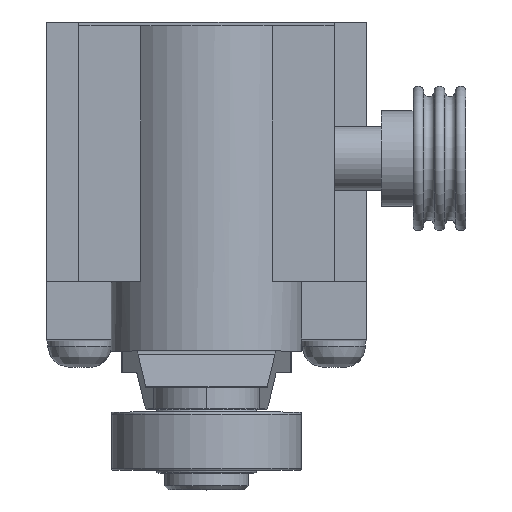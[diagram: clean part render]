
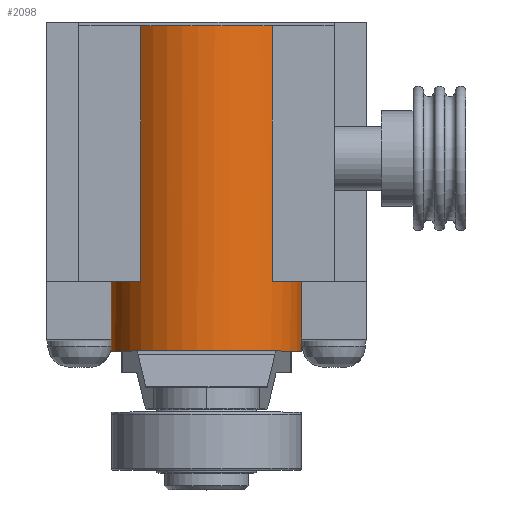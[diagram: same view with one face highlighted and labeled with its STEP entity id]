
A CAD part, top view. The second image highlights one B-rep face of the part: STEP entity #2098.
In plain terms, the highlighted cylindrical face has radius 9 mm (diameter 18 mm), a full revolution.
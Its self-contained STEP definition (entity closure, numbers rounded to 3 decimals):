
#1884=CARTESIAN_POINT('',(4.975,-9.5,63.));
#1885=VERTEX_POINT('',#1884);
#1886=CARTESIAN_POINT('',(-4.975,-9.5,63.));
#1887=VERTEX_POINT('',#1886);
#1888=CARTESIAN_POINT('',(0.,-9.5,70.5));
#1889=DIRECTION('',(0.0,1.0,0.0));
#1890=DIRECTION('',(-1.0,0.0,0.0));
#1891=AXIS2_PLACEMENT_3D('',#1888,#1889,#1890);
#1892=CIRCLE('',#1891,9.0);
#1893=EDGE_CURVE('',#1885,#1887,#1892,.T.);
#1917=CARTESIAN_POINT('',(-6.225,-9.5,77.0));
#1918=VERTEX_POINT('',#1917);
#1919=CARTESIAN_POINT('',(0.,-9.5,70.5));
#1920=DIRECTION('',(0.0,1.0,0.0));
#1921=DIRECTION('',(-1.0,0.0,0.0));
#1922=AXIS2_PLACEMENT_3D('',#1919,#1920,#1921);
#1923=CIRCLE('',#1922,9.0);
#1924=EDGE_CURVE('',#1887,#1918,#1923,.T.);
#1964=CARTESIAN_POINT('',(6.225,-9.5,77.0));
#1965=VERTEX_POINT('',#1964);
#1972=CARTESIAN_POINT('',(0.,-9.5,70.5));
#1973=DIRECTION('',(0.0,1.0,0.0));
#1974=DIRECTION('',(-1.0,0.0,0.0));
#1975=AXIS2_PLACEMENT_3D('',#1972,#1973,#1974);
#1976=CIRCLE('',#1975,9.0);
#1977=EDGE_CURVE('',#1965,#1885,#1976,.T.);
#2037=CARTESIAN_POINT('',(-6.225,14.6,77.));
#2038=VERTEX_POINT('',#2037);
#2045=CARTESIAN_POINT('',(6.225,14.6,77.));
#2046=VERTEX_POINT('',#2045);
#2047=CARTESIAN_POINT('',(0.,14.6,70.5));
#2048=DIRECTION('',(0.0,-1.0,0.0));
#2049=DIRECTION('',(-1.0,0.0,0.0));
#2050=AXIS2_PLACEMENT_3D('',#2047,#2048,#2049);
#2051=CIRCLE('',#2050,9.0);
#2052=EDGE_CURVE('',#2046,#2038,#2051,.T.);
#2064=CARTESIAN_POINT('',(0.,-9.5,70.5));
#2065=DIRECTION('',(0.0,-1.0,0.0));
#2066=DIRECTION('',(-1.0,0.0,0.0));
#2067=AXIS2_PLACEMENT_3D('',#2064,#2065,#2066);
#2068=CYLINDRICAL_SURFACE('',#2067,9.0);
#2069=CARTESIAN_POINT('',(6.225,14.6,77.));
#2070=DIRECTION('',(0.0,-1.0,0.0));
#2071=VECTOR('',#2070,24.1);
#2072=LINE('',#2069,#2071);
#2073=EDGE_CURVE('',#2046,#1965,#2072,.T.);
#2074=ORIENTED_EDGE('',*,*,#2073,.F.);
#2075=ORIENTED_EDGE('',*,*,#2052,.T.);
#2076=CARTESIAN_POINT('',(-6.225,-9.5,77.));
#2077=DIRECTION('',(0.0,1.0,0.0));
#2078=VECTOR('',#2077,24.1);
#2079=LINE('',#2076,#2078);
#2080=EDGE_CURVE('',#1918,#2038,#2079,.T.);
#2081=ORIENTED_EDGE('',*,*,#2080,.F.);
#2082=ORIENTED_EDGE('',*,*,#1924,.F.);
#2083=ORIENTED_EDGE('',*,*,#1893,.F.);
#2084=ORIENTED_EDGE('',*,*,#1977,.F.);
#2085=EDGE_LOOP('',(#2074,#2075,#2081,#2082,#2083,#2084));
#2086=FACE_OUTER_BOUND('',#2085,.T.);
#2087=CARTESIAN_POINT('',(9.,-16.1,70.5));
#2088=VERTEX_POINT('',#2087);
#2089=CARTESIAN_POINT('',(0.,-16.1,70.5));
#2090=DIRECTION('',(0.0,1.0,0.0));
#2091=DIRECTION('',(-1.0,0.0,0.0));
#2092=AXIS2_PLACEMENT_3D('',#2089,#2090,#2091);
#2093=CIRCLE('',#2092,9.0);
#2094=EDGE_CURVE('',#2088,#2088,#2093,.T.);
#2095=ORIENTED_EDGE('',*,*,#2094,.T.);
#2096=EDGE_LOOP('',(#2095));
#2097=FACE_BOUND('',#2096,.T.);
#2098=ADVANCED_FACE('',(#2086,#2097),#2068,.T.);
